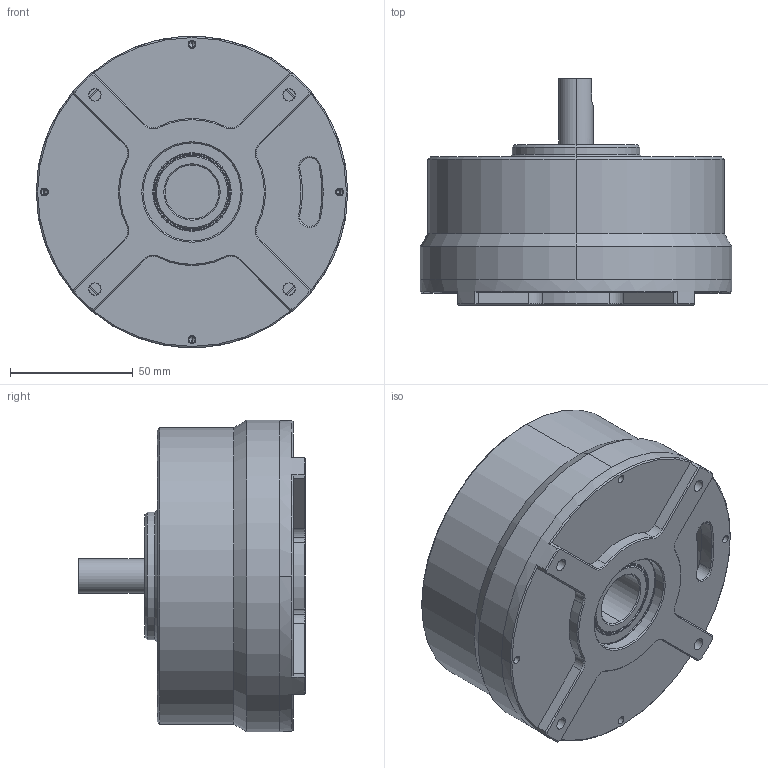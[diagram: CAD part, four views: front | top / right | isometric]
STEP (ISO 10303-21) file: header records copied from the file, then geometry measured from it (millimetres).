
FILE_DESCRIPTION (( 'STEP AP214' ), '1' );
FILE_NAME ('11527蚾饜尨砩.STEP', '2025-03-25T07:52:34', ( '' ), ( '' ), 'SwSTEP 2.0', 'SolidWorks 2022', '' );
FILE_SCHEMA (( 'AUTOMOTIVE_DESIGN' ));
Length unit declared in the file: millimetre
Products named in the file (6): 11527装配示意; C0105000182-EZO6806轴承; 转子装配; 扭力测试工装前盖; 扭力测试工装后盖; 11527扭力测试轴
Assembly tree (6 placements, depth 3):
  11527装配示意
    扭力测试工装前盖
    C0105000182-EZO6806轴承  x2
    转子装配
      11527扭力测试轴
    扭力测试工装后盖
Bounding box: 127 x 92.5 x 127 mm (x, y, z)
Volume: 300547.4 mm3; surface area: 127046.6 mm2
Topology: 5 solids, 5 shells, 353 faces, 872 edges, 540 vertices
Faces by surface type: cylinder 165, plane 85, cone 71, torus 32
Entity records: 10617 total; most frequent: DIRECTION 1844, CARTESIAN_POINT 1726, ORIENTED_EDGE 1588, EDGE_CURVE 794, AXIS2_PLACEMENT_3D 746, VERTEX_POINT 500, CIRCLE 417, EDGE_LOOP 376
